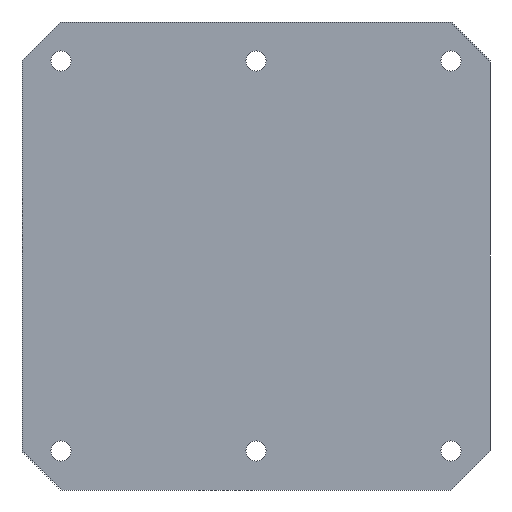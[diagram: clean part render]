
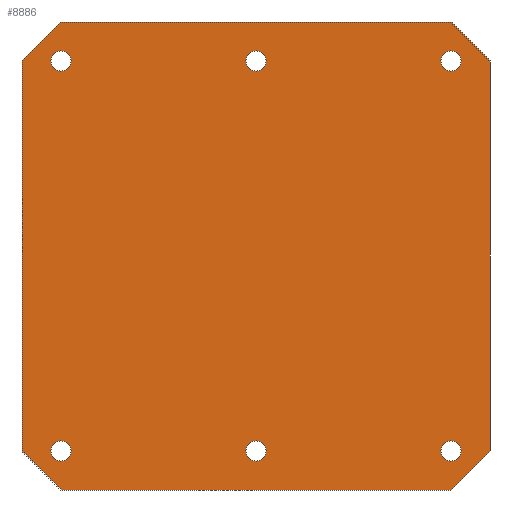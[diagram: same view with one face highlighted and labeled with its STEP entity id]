
A CAD part, front view. The second image highlights one B-rep face of the part: STEP entity #8886.
In plain terms, the highlighted planar face has unit normal (0, -1, 0).
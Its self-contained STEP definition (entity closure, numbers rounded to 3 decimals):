
#145=DIRECTION('',(-0.707,0.,-0.707));
#146=VECTOR('',#145,35.355);
#147=CARTESIAN_POINT('',(-125.,-50.,150.));
#148=LINE('',#147,#146);
#149=DIRECTION('',(1.,0.,0.));
#150=VECTOR('',#149,250.);
#151=CARTESIAN_POINT('',(-125.,-50.,150.));
#152=LINE('',#151,#150);
#153=DIRECTION('',(-0.707,0.,0.707));
#154=VECTOR('',#153,35.355);
#155=CARTESIAN_POINT('',(150.,-50.,125.));
#156=LINE('',#155,#154);
#157=DIRECTION('',(0.,0.,-1.));
#158=VECTOR('',#157,250.);
#159=CARTESIAN_POINT('',(150.,-50.,125.));
#160=LINE('',#159,#158);
#161=DIRECTION('',(0.707,0.,0.707));
#162=VECTOR('',#161,35.355);
#163=CARTESIAN_POINT('',(125.,-50.,-150.));
#164=LINE('',#163,#162);
#165=DIRECTION('',(-1.,0.,0.));
#166=VECTOR('',#165,250.);
#167=CARTESIAN_POINT('',(125.,-50.,-150.));
#168=LINE('',#167,#166);
#169=DIRECTION('',(0.707,0.,-0.707));
#170=VECTOR('',#169,35.355);
#171=CARTESIAN_POINT('',(-150.,-50.,-125.));
#172=LINE('',#171,#170);
#173=DIRECTION('',(0.,0.,1.));
#174=VECTOR('',#173,250.);
#175=CARTESIAN_POINT('',(-150.,-50.,-125.));
#176=LINE('',#175,#174);
#177=CARTESIAN_POINT('',(-125.,-50.,-125.));
#178=DIRECTION('',(0.,1.,0.));
#179=DIRECTION('',(1.,0.,0.));
#180=AXIS2_PLACEMENT_3D('',#177,#178,#179);
#182=CARTESIAN_POINT('',(-125.,-50.,-125.));
#183=DIRECTION('',(0.,1.,0.));
#184=DIRECTION('',(-1.,0.,0.));
#185=AXIS2_PLACEMENT_3D('',#182,#183,#184);
#187=CARTESIAN_POINT('',(0.,-50.,-125.));
#188=DIRECTION('',(0.,1.,0.));
#189=DIRECTION('',(1.,0.,0.));
#190=AXIS2_PLACEMENT_3D('',#187,#188,#189);
#192=CARTESIAN_POINT('',(0.,-50.,-125.));
#193=DIRECTION('',(0.,1.,0.));
#194=DIRECTION('',(-1.,0.,0.));
#195=AXIS2_PLACEMENT_3D('',#192,#193,#194);
#197=CARTESIAN_POINT('',(125.,-50.,-125.));
#198=DIRECTION('',(0.,-1.,0.));
#199=DIRECTION('',(-1.,0.,0.));
#200=AXIS2_PLACEMENT_3D('',#197,#198,#199);
#202=CARTESIAN_POINT('',(125.,-50.,-125.));
#203=DIRECTION('',(0.,-1.,0.));
#204=DIRECTION('',(1.,0.,0.));
#205=AXIS2_PLACEMENT_3D('',#202,#203,#204);
#207=CARTESIAN_POINT('',(-125.,-50.,125.));
#208=DIRECTION('',(0.,-1.,0.));
#209=DIRECTION('',(1.,0.,0.));
#210=AXIS2_PLACEMENT_3D('',#207,#208,#209);
#212=CARTESIAN_POINT('',(-125.,-50.,125.));
#213=DIRECTION('',(0.,-1.,0.));
#214=DIRECTION('',(-1.,0.,0.));
#215=AXIS2_PLACEMENT_3D('',#212,#213,#214);
#217=CARTESIAN_POINT('',(0.,-50.,125.));
#218=DIRECTION('',(0.,-1.,0.));
#219=DIRECTION('',(1.,0.,0.));
#220=AXIS2_PLACEMENT_3D('',#217,#218,#219);
#222=CARTESIAN_POINT('',(0.,-50.,125.));
#223=DIRECTION('',(0.,-1.,0.));
#224=DIRECTION('',(-1.,0.,0.));
#225=AXIS2_PLACEMENT_3D('',#222,#223,#224);
#227=CARTESIAN_POINT('',(125.,-50.,125.));
#228=DIRECTION('',(0.,1.,0.));
#229=DIRECTION('',(-1.,0.,0.));
#230=AXIS2_PLACEMENT_3D('',#227,#228,#229);
#232=CARTESIAN_POINT('',(125.,-50.,125.));
#233=DIRECTION('',(0.,1.,0.));
#234=DIRECTION('',(1.,0.,0.));
#235=AXIS2_PLACEMENT_3D('',#232,#233,#234);
#6797=CARTESIAN_POINT('',(-118.5,-50.,-125.));
#6798=CARTESIAN_POINT('',(-131.5,-50.,-125.));
#6799=VERTEX_POINT('',#6797);
#6800=VERTEX_POINT('',#6798);
#6809=CARTESIAN_POINT('',(118.5,-50.,-125.));
#6810=VERTEX_POINT('',#6809);
#6813=CARTESIAN_POINT('',(131.5,-50.,-125.));
#6814=VERTEX_POINT('',#6813);
#6825=CARTESIAN_POINT('',(-118.5,-50.,125.));
#6826=VERTEX_POINT('',#6825);
#6829=CARTESIAN_POINT('',(-131.5,-50.,125.));
#6830=VERTEX_POINT('',#6829);
#6841=CARTESIAN_POINT('',(118.5,-50.,125.));
#6842=VERTEX_POINT('',#6841);
#6845=CARTESIAN_POINT('',(131.5,-50.,125.));
#6846=VERTEX_POINT('',#6845);
#6879=CARTESIAN_POINT('',(-125.,-50.,150.));
#6880=CARTESIAN_POINT('',(-150.,-50.,125.));
#6881=VERTEX_POINT('',#6879);
#6882=VERTEX_POINT('',#6880);
#6889=CARTESIAN_POINT('',(-150.,-50.,-125.));
#6890=VERTEX_POINT('',#6889);
#6891=CARTESIAN_POINT('',(125.,-50.,150.));
#6892=VERTEX_POINT('',#6891);
#6893=CARTESIAN_POINT('',(-125.,-50.,-150.));
#6894=VERTEX_POINT('',#6893);
#6899=CARTESIAN_POINT('',(125.,-50.,-150.));
#6900=CARTESIAN_POINT('',(150.,-50.,-125.));
#6901=VERTEX_POINT('',#6899);
#6902=VERTEX_POINT('',#6900);
#6907=CARTESIAN_POINT('',(150.,-50.,125.));
#6908=VERTEX_POINT('',#6907);
#6923=CARTESIAN_POINT('',(6.5,-50.,-125.));
#6924=CARTESIAN_POINT('',(-6.5,-50.,-125.));
#6925=VERTEX_POINT('',#6923);
#6926=VERTEX_POINT('',#6924);
#6939=CARTESIAN_POINT('',(6.5,-50.,125.));
#6940=CARTESIAN_POINT('',(-6.5,-50.,125.));
#6941=VERTEX_POINT('',#6939);
#6942=VERTEX_POINT('',#6940);
#8829=CARTESIAN_POINT('',(0.,-50.,0.));
#8830=DIRECTION('',(0.,1.,0.));
#8831=DIRECTION('',(1.,0.,0.));
#8832=AXIS2_PLACEMENT_3D('',#8829,#8830,#8831);
#8833=PLANE('',#8832);
#8835=ORIENTED_EDGE('',*,*,#8834,.F.);
#8837=ORIENTED_EDGE('',*,*,#8836,.T.);
#8839=ORIENTED_EDGE('',*,*,#8838,.F.);
#8841=ORIENTED_EDGE('',*,*,#8840,.T.);
#8843=ORIENTED_EDGE('',*,*,#8842,.F.);
#8845=ORIENTED_EDGE('',*,*,#8844,.T.);
#8847=ORIENTED_EDGE('',*,*,#8846,.F.);
#8849=ORIENTED_EDGE('',*,*,#8848,.T.);
#8850=EDGE_LOOP('',(#8835,#8837,#8839,#8841,#8843,#8845,#8847,#8849));
#8851=FACE_OUTER_BOUND('',#8850,.F.);
#8853=ORIENTED_EDGE('',*,*,#8852,.F.);
#8855=ORIENTED_EDGE('',*,*,#8854,.F.);
#8856=EDGE_LOOP('',(#8853,#8855));
#8857=FACE_BOUND('',#8856,.F.);
#8859=ORIENTED_EDGE('',*,*,#8858,.F.);
#8861=ORIENTED_EDGE('',*,*,#8860,.F.);
#8862=EDGE_LOOP('',(#8859,#8861));
#8863=FACE_BOUND('',#8862,.F.);
#8865=ORIENTED_EDGE('',*,*,#8864,.T.);
#8867=ORIENTED_EDGE('',*,*,#8866,.T.);
#8868=EDGE_LOOP('',(#8865,#8867));
#8869=FACE_BOUND('',#8868,.F.);
#8870=ORIENTED_EDGE('',*,*,#8824,.T.);
#8871=ORIENTED_EDGE('',*,*,#8808,.T.);
#8872=EDGE_LOOP('',(#8870,#8871));
#8873=FACE_BOUND('',#8872,.F.);
#8875=ORIENTED_EDGE('',*,*,#8874,.T.);
#8877=ORIENTED_EDGE('',*,*,#8876,.T.);
#8878=EDGE_LOOP('',(#8875,#8877));
#8879=FACE_BOUND('',#8878,.F.);
#8881=ORIENTED_EDGE('',*,*,#8880,.F.);
#8883=ORIENTED_EDGE('',*,*,#8882,.F.);
#8884=EDGE_LOOP('',(#8881,#8883));
#8885=FACE_BOUND('',#8884,.F.);
#8886=ADVANCED_FACE('',(#8851,#8857,#8863,#8869,#8873,#8879,#8885),#8833,.F.);
#181=CIRCLE('',#180,6.5);
#186=CIRCLE('',#185,6.5);
#191=CIRCLE('',#190,6.5);
#196=CIRCLE('',#195,6.5);
#201=CIRCLE('',#200,6.5);
#206=CIRCLE('',#205,6.5);
#211=CIRCLE('',#210,6.5);
#216=CIRCLE('',#215,6.5);
#221=CIRCLE('',#220,6.5);
#226=CIRCLE('',#225,6.5);
#231=CIRCLE('',#230,6.5);
#236=CIRCLE('',#235,6.5);
#8808=EDGE_CURVE('',#6830,#6826,#216,.T.);
#8824=EDGE_CURVE('',#6826,#6830,#211,.T.);
#8834=EDGE_CURVE('',#6881,#6882,#148,.T.);
#8836=EDGE_CURVE('',#6881,#6892,#152,.T.);
#8838=EDGE_CURVE('',#6908,#6892,#156,.T.);
#8840=EDGE_CURVE('',#6908,#6902,#160,.T.);
#8842=EDGE_CURVE('',#6901,#6902,#164,.T.);
#8844=EDGE_CURVE('',#6901,#6894,#168,.T.);
#8846=EDGE_CURVE('',#6890,#6894,#172,.T.);
#8848=EDGE_CURVE('',#6890,#6882,#176,.T.);
#8852=EDGE_CURVE('',#6799,#6800,#181,.T.);
#8854=EDGE_CURVE('',#6800,#6799,#186,.T.);
#8858=EDGE_CURVE('',#6925,#6926,#191,.T.);
#8860=EDGE_CURVE('',#6926,#6925,#196,.T.);
#8864=EDGE_CURVE('',#6810,#6814,#201,.T.);
#8866=EDGE_CURVE('',#6814,#6810,#206,.T.);
#8874=EDGE_CURVE('',#6941,#6942,#221,.T.);
#8876=EDGE_CURVE('',#6942,#6941,#226,.T.);
#8880=EDGE_CURVE('',#6842,#6846,#231,.T.);
#8882=EDGE_CURVE('',#6846,#6842,#236,.T.);
